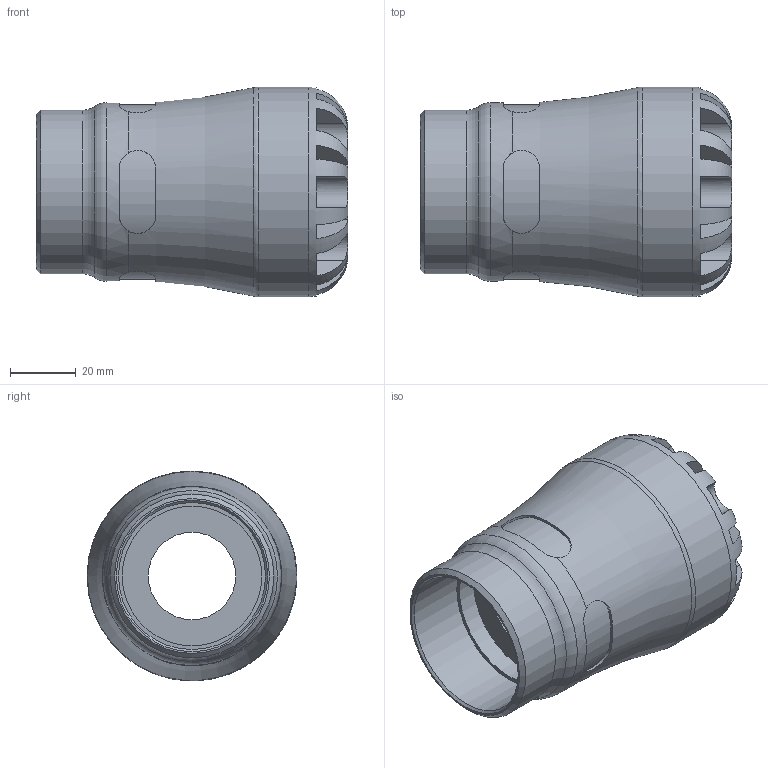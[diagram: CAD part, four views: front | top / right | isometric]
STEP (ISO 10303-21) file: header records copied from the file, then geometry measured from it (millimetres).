
FILE_DESCRIPTION(/* description */ ('PLASSON FEMALE ADAPTOR 32x1 1/2" SERIES 1'),/* implementation_level */ '2;1');
FILE_NAME(/* name */ 'C:\Dropbox\KIMPROJECTS-Inventor\99-16-3568-Processing\S1\27.01.19\1003G\1003G0032015_1903G0032015.ipt.stp',/* time_stamp */ '2019-01-27T09:12:08+02:00',/* author */ ('KIM'),/* organization */ (''),/* preprocessor_version */ 'ST-DEVELOPER v15.6',/* originating_system */ 'Autodesk Inventor 2015',/* authorisation */ '');
FILE_SCHEMA (('AUTOMOTIVE_DESIGN { 1 0 10303 214 3 1 1 }'));
Length unit declared in the file: millimetre
Products named in the file (1): 1003G0032015_1903G0032015
Bounding box: 95 x 64 x 64 mm (x, y, z)
Volume: 142331.4 mm3; surface area: 33431.1 mm2
Topology: 1 solids, 1 shells, 104 faces, 265 edges, 166 vertices
Faces by surface type: plane 61, cylinder 35, torus 5, cone 3
Full cylindrical faces by diameter (mm): 26.667 x1, 32 x1, 42.603 x1, 44.845 x1, 49.92 x1, 54.4 x1, 64 x1
Entity records: 3844 total; most frequent: CARTESIAN_POINT 1457, ORIENTED_EDGE 492, DIRECTION 478, EDGE_CURVE 246, AXIS2_PLACEMENT_3D 199, VERTEX_POINT 162, EDGE_LOOP 124, FACE_OUTER_BOUND 104
